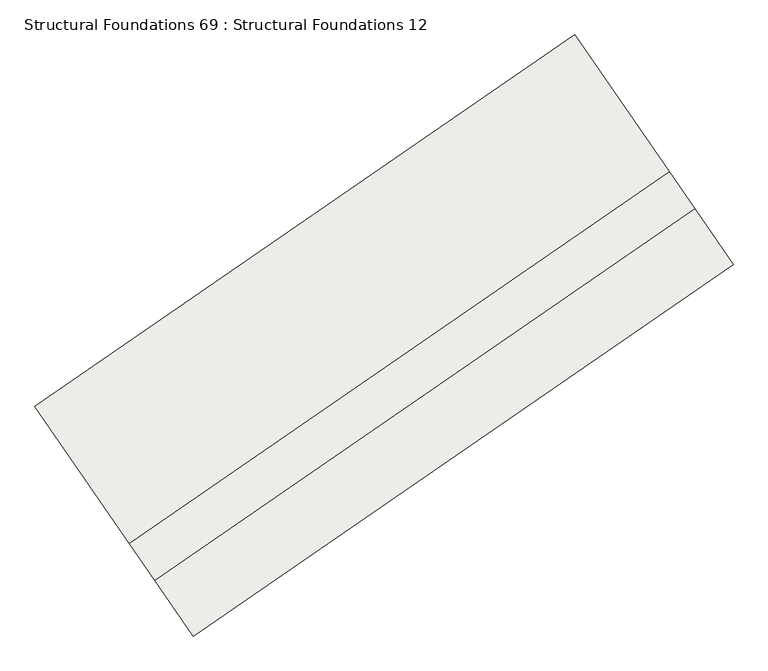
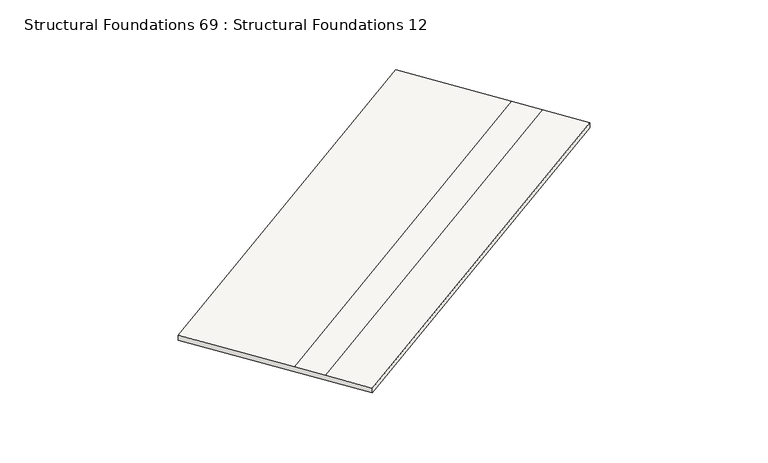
"""IFC4 building model written with IfcOpenShell, lengths in millimetres: slab geometry, Structural Foundations 69 : Structural Foundations 12."""

from ifc_helpers import new_model, si_unit, origin, place, context, project, spatial, faceted_brep, source, transform, mapped, element, save


def structural_foundations_69_structural_foundations_12_620d64ec(model_context):
    return source(origin(), model_context, "Body", "Brep", [
        faceted_brep([(-296103.1813531, -408354.1814233, 634338.0000001), (-295592.639739, -409095.3610652, 634338.0), (-295592.639739, -409095.3610652, 634238.0), (-297691.5330399, -406048.2892066, 634238.0000005), (-297691.5330399, -406048.2892066, 634338.0000005), (-296440.706086, -407864.1793281, 634338.0000002), (-303267.9178855, -413289.4170227, 634265.0000001), (-303605.4426183, -412799.4149275, 634265.0000002), (-304856.2695722, -410983.524806, 634265.0000005), (-304856.2695722, -410983.524806, 634165.0000005), (-302757.3762713, -414030.5966646, 634165.0), (-302757.3762713, -414030.5966646, 634265.0)], [[[0, 1, 2, 3, 4, 5]], [[6, 7, 8, 9, 10, 11]], [[8, 7, 5, 4]], [[7, 6, 0, 5]], [[6, 11, 1, 0]], [[11, 10, 2, 1]], [[10, 9, 3, 2]], [[9, 8, 4, 3]]]),
    ])


if __name__ == "__main__":
    model = new_model("IFC4")
    model_context = context("Model", 3, world=origin())
    ifc_project = project(units=[si_unit("LENGTHUNIT", "METRE", prefix="MILLI")], contexts=[model_context])
    site = spatial("IfcSite", under=ifc_project)
    building = spatial("IfcBuilding", under=site)
    placement = place(None, origin())
    structural_foundations_69_structural_foundations_12_shape = structural_foundations_69_structural_foundations_12_620d64ec(model_context)
    element("IfcSlab", 1, ObjectType="Structural Foundations 69 : Structural Foundations 12", at=placement, inside=building, context=model_context, shape_type="MappedRepresentation", body=[
        mapped(structural_foundations_69_structural_foundations_12_shape, transform((0.0, 0.0, 0.0), x_axis=(1.0, 0.0, 0.0), y_axis=(0.0, 1.0, 0.0), z_axis=(0.0, 0.0, 1.0))),
    ])
    save(model, "model.ifc")
